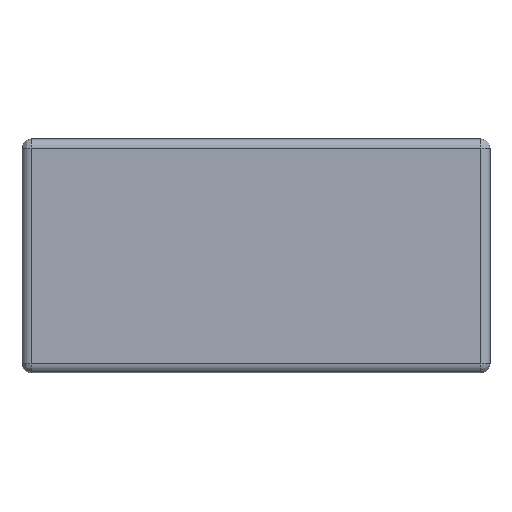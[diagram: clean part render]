
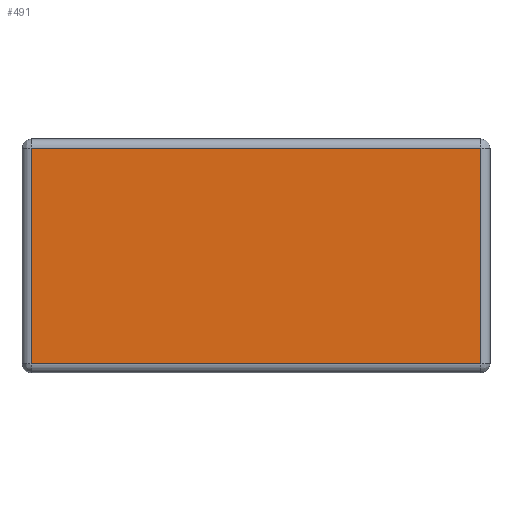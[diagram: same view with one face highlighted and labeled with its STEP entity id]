
A CAD part, front view. The second image highlights one B-rep face of the part: STEP entity #491.
In plain terms, the highlighted planar face has unit normal (0, -1, 0).
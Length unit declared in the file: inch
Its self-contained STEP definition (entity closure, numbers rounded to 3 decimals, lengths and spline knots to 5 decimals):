
#2 = EDGE_CURVE ( 'NONE', #502, #543, #440, .T. ) ;
#4 = DIRECTION ( 'NONE',  ( 0., 1., 0. ) ) ;
#7 = ORIENTED_EDGE ( 'NONE', *, *, #866, .F. ) ;
#182 = VECTOR ( 'NONE', #1121, 39.37008 ) ;
#207 = EDGE_LOOP ( 'NONE', ( #795, #461, #7, #499 ) ) ;
#210 = VERTEX_POINT ( 'NONE', #875 ) ;
#286 = DIRECTION ( 'NONE',  ( 0., 0., -1. ) ) ;
#384 = EDGE_CURVE ( 'NONE', #814, #502, #397, .T. ) ;
#397 = LINE ( 'NONE', #1007, #435 ) ;
#398 = CARTESIAN_POINT ( 'NONE',  ( -0.96123, 0., 0.14883 ) ) ;
#427 = DIRECTION ( 'NONE',  ( -1., 0., 0. ) ) ;
#435 = VECTOR ( 'NONE', #427, 39.37008 ) ;
#440 = LINE ( 'NONE', #649, #182 ) ;
#441 = DIRECTION ( 'NONE',  ( 1., 0., 0. ) ) ;
#461 = ORIENTED_EDGE ( 'NONE', *, *, #488, .F. ) ;
#488 = EDGE_CURVE ( 'NONE', #210, #814, #690, .T. ) ;
#491 = ADVANCED_FACE ( 'NONE', ( #907 ), #497, .F. ) ;
#497 = PLANE ( 'NONE',  #845 ) ;
#499 = ORIENTED_EDGE ( 'NONE', *, *, #2, .F. ) ;
#502 = VERTEX_POINT ( 'NONE', #585 ) ;
#543 = VERTEX_POINT ( 'NONE', #398 ) ;
#585 = CARTESIAN_POINT ( 'NONE',  ( -0.96123, 0., -0.77243 ) ) ;
#649 = CARTESIAN_POINT ( 'NONE',  ( -0.96123, 0., -0.8118 ) ) ;
#689 = DIRECTION ( 'NONE',  ( 0., 0., 1. ) ) ;
#690 = LINE ( 'NONE', #968, #716 ) ;
#716 = VECTOR ( 'NONE', #286, 39.37008 ) ;
#795 = ORIENTED_EDGE ( 'NONE', *, *, #384, .F. ) ;
#814 = VERTEX_POINT ( 'NONE', #1188 ) ;
#845 = AXIS2_PLACEMENT_3D ( 'NONE', #1157, #4, #689 ) ;
#866 = EDGE_CURVE ( 'NONE', #543, #210, #941, .T. ) ;
#875 = CARTESIAN_POINT ( 'NONE',  ( 0.96003, 0., 0.14883 ) ) ;
#907 = FACE_OUTER_BOUND ( 'NONE', #207, .T. ) ;
#941 = LINE ( 'NONE', #1108, #1199 ) ;
#968 = CARTESIAN_POINT ( 'NONE',  ( 0.96003, 0., -0.8118 ) ) ;
#1007 = CARTESIAN_POINT ( 'NONE',  ( -1.0006, 0., -0.77243 ) ) ;
#1108 = CARTESIAN_POINT ( 'NONE',  ( -1.0006, 0., 0.14883 ) ) ;
#1121 = DIRECTION ( 'NONE',  ( 0., 0., 1. ) ) ;
#1157 = CARTESIAN_POINT ( 'NONE',  ( -1.0006, 0., 0.1882 ) ) ;
#1188 = CARTESIAN_POINT ( 'NONE',  ( 0.96003, 0., -0.77243 ) ) ;
#1199 = VECTOR ( 'NONE', #441, 39.37008 ) ;
